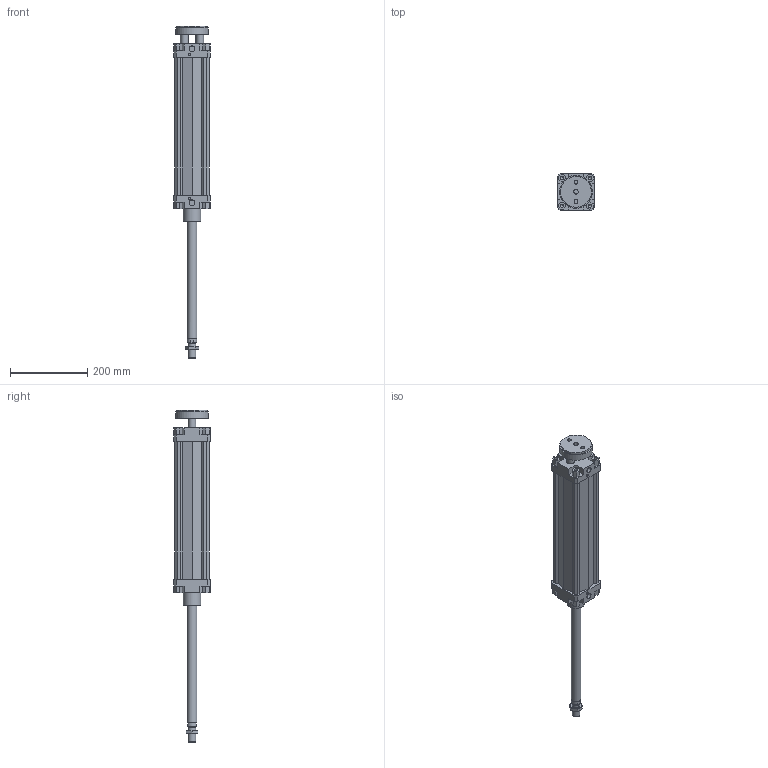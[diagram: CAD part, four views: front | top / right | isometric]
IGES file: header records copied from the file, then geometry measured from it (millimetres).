
Global section: file name: 132#_080_0300_02; native system: Autodesk Inventor 2014; preprocessor: unknown; author: A. Manieri; date: 20161006.162431; units: millimetre
Bounding box: 95 x 95 x 860 mm (x, y, z)
Volume: 2056925.8 mm3; surface area: 425258.9 mm2
Topology: 3 solids, 3 shells, 220 faces, 589 edges, 397 vertices
Faces by surface type: bspline 220
